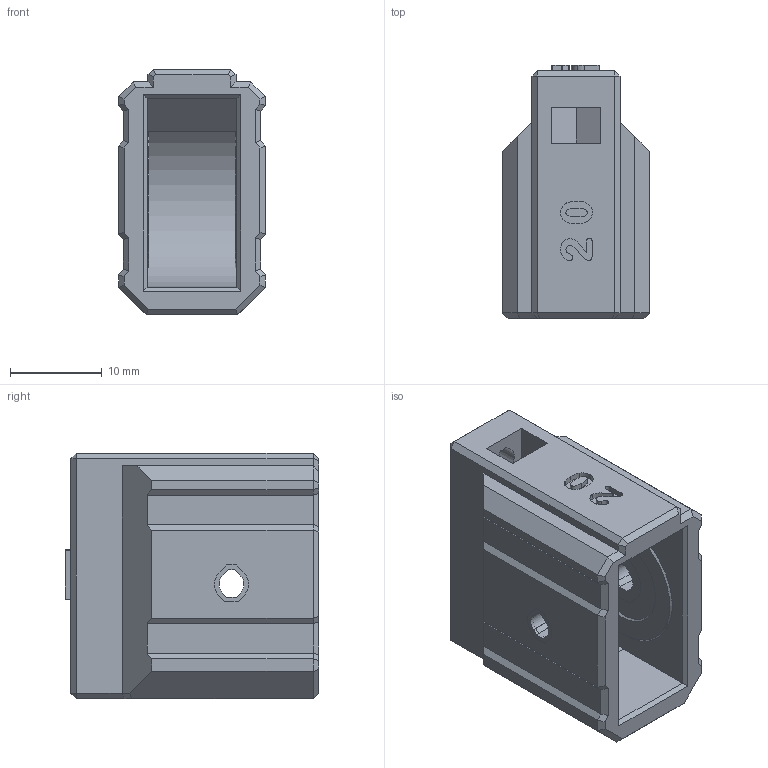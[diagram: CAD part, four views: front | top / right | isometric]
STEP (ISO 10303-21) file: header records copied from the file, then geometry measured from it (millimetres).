
FILE_DESCRIPTION(/* description */ (''),/* implementation_level */ '2;1');
FILE_NAME(/* name */ 'E:/Mihai/3D Printing/My Designs/Pit Stop/Adapted Revised X-Axis/step/X-Idler-Tensioner (20 ID_3) 3.01 v4.step',/* time_stamp */ '2021-01-10T18:49:12+02:00',/* author */ (''),/* organization */ (''),/* preprocessor_version */ 'ST-DEVELOPER v18.1',/* originating_system */ 'Autodesk Translation Framework v9.7.1.1290',/* authorisation */ '');
FILE_SCHEMA (('AUTOMOTIVE_DESIGN { 1 0 10303 214 3 1 1 }'));
Length unit declared in the file: millimetre
Products named in the file (1): X-Idler-Tensioner (20 ID_3) 3.01
Bounding box: 16 x 27.6 x 26.8 mm (x, y, z)
Volume: 11754.4 mm3; surface area: 8343.1 mm2
Topology: 2 solids, 2 shells, 472 faces, 1186 edges, 748 vertices
Faces by surface type: plane 330, bspline 110, cylinder 18, cone 14
Entity records: 16895 total; most frequent: CARTESIAN_POINT 6293, ORIENTED_EDGE 2372, DIRECTION 1754, EDGE_CURVE 1186, LINE 904, VECTOR 904, VERTEX_POINT 748, EDGE_LOOP 518
